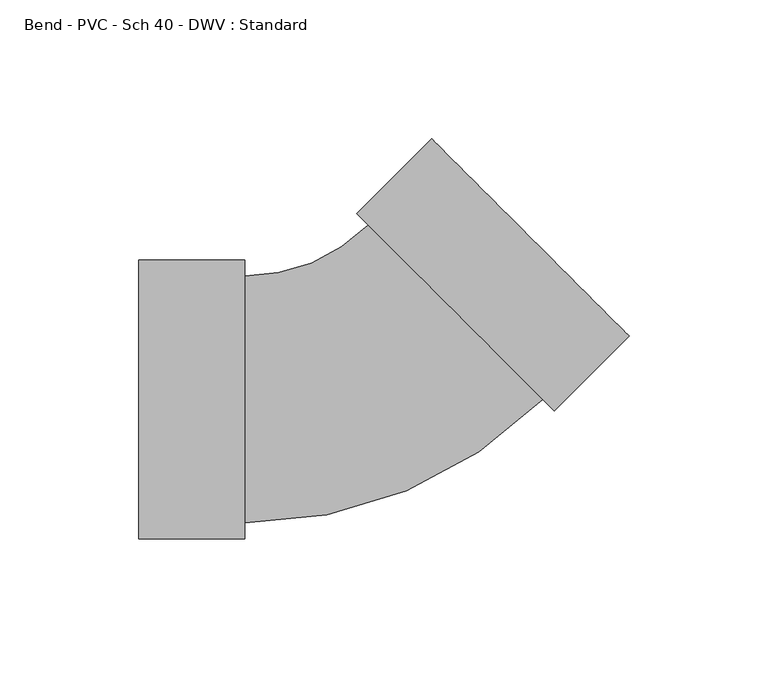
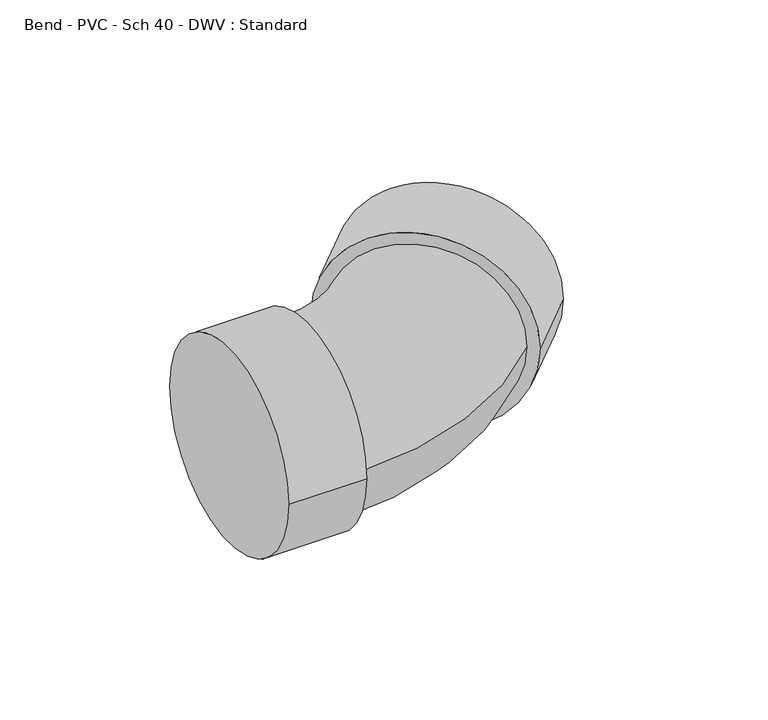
"""IFC4 building model written with IfcOpenShell, lengths in millimetres: pipe fitting geometry, Bend - PVC - Sch 40 - DWV : Standard."""

from ifc_helpers import new_model, si_unit, point, frame, origin, place, context, project, spatial, circle_curve, ellipse_curve, trimmed, source, transform, mapped, element, save
from ifc_brep_helpers import plane_surface, cylinder_surface, revolved_surface, advanced_brep


def bend_pvc_sch_40_dwv_standard_c6b3a881(model_context):
    return source(origin(), model_context, "Body", "AdvancedBrep", [
        advanced_brep(
        [(-82.55, -50.2666, 0.0), (-82.55, 50.2666, 0.0), (-44.45, -50.2666, 0.0), (-44.45, 50.2666, 0.0), (-44.45, -44.45, 0.0), (-44.45, 44.45, 0.0), (0.0011777, 62.8617928, 0.0), (62.8617928, -0.0011777, 0.0), (66.9746731, -4.114212, 0.0), (-4.1117026, 66.9748272, 0.0), (93.9159462, 22.8260516, 0.0), (22.8295705, 93.9150908, 0.0)],
        [
            (0, 1, circle_curve(frame((-82.55, 0.0, 0.0), z_axis=(-1.0, 0.0, 0.0), x_axis=(0.0, 1.0, 0.0)), 50.2666)),
            (1, 0, circle_curve(frame((-82.55, 0.0, 0.0), z_axis=(-1.0, 0.0, 0.0), x_axis=(0.0, 1.0, 0.0)), 50.2666)),
            (2, 3, circle_curve(frame((-44.45, 0.0, 0.0), z_axis=(1.0, 0.0, 0.0), x_axis=(0.0, 1.0, 0.0)), 50.2666)),
            (3, 2, circle_curve(frame((-44.45, 0.0, 0.0), z_axis=(1.0, 0.0, 0.0), x_axis=(0.0, 1.0, 0.0)), 50.2666)),
            (4, 5, circle_curve(frame((-44.45, 0.0, 0.0), z_axis=(-1.0, 0.0, 0.0), x_axis=(0.0, 1.0, 0.0)), 44.45)),
            (5, 4, circle_curve(frame((-44.45, 0.0, 0.0), z_axis=(-1.0, 0.0, 0.0), x_axis=(0.0, 1.0, 0.0)), 44.45)),
            (0, 2),
            (3, 1),
            (6, 5, circle_curve(frame((-44.45, 107.314636, 0.0), z_axis=(0.0, 0.0, -1.0), x_axis=(0.0, -1.0, 0.0)), 62.864636)),
            (4, 7, circle_curve(frame((-44.45, 107.314636, 0.0), z_axis=(0.0, 0.0, 1.0), x_axis=(0.0, -1.0, 0.0)), 151.764636)),
            (7, 6, circle_curve(frame((31.4314853, 31.4303076, 0.0), z_axis=(-0.7071200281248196, -0.7070935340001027, 0.0), x_axis=(-0.7070935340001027, 0.7071200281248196, 0.0)), 44.45)),
            (6, 7, circle_curve(frame((31.4314853, 31.4303076, 0.0), z_axis=(-0.7071200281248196, -0.7070935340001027, 0.0), x_axis=(-0.7070935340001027, 0.7071200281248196, 0.0)), 44.45)),
            (8, 9, circle_curve(frame((31.4314853, 31.4303076, 0.0), z_axis=(-0.7071200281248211, -0.7070935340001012, 0.0), x_axis=(-0.7070935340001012, 0.7071200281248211, 0.0)), 50.2666)),
            (9, 8, circle_curve(frame((31.4314853, 31.4303076, 0.0), z_axis=(-0.7071200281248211, -0.7070935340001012, 0.0), x_axis=(-0.7070935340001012, 0.7071200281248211, 0.0)), 50.2666)),
            (10, 11, circle_curve(frame((58.3727583, 58.3705712, 0.0), z_axis=(0.7071200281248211, 0.7070935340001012, 0.0), x_axis=(-0.7070935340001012, 0.7071200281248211, 0.0)), 50.2666)),
            (11, 10, circle_curve(frame((58.3727583, 58.3705712, 0.0), z_axis=(0.7071200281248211, 0.7070935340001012, 0.0), x_axis=(-0.7070935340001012, 0.7071200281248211, 0.0)), 50.2666)),
            (8, 10),
            (11, 9),
        ],
        [
            plane_surface(frame((-82.55, 0.0, 0.0), z_axis=(-1.0, 0.0, 0.0), x_axis=(0.0, 0.0, 1.0))),
            plane_surface(frame((-44.45, 0.0, 0.0), z_axis=(1.0, 0.0, 0.0), x_axis=(0.0, 0.0, 1.0))),
            cylinder_surface(frame((-82.55, 0.0, 0.0), z_axis=(-1.0, 0.0, 0.0), x_axis=(0.0, 1.0, 0.0)), 50.2666),
            revolved_surface(trimmed(ellipse_curve(frame((-44.45, 0.0, 0.0), z_axis=(-1.0, 0.0, 0.0), x_axis=(0.0, 1.0, 0.0)), 44.45, 44.45), [point((-44.45, -44.45, 0.0))], [point((-44.45, 44.45, 0.0))], True, "CARTESIAN"), (-44.45, 107.314636, 0.0), (0.0, 0.0, 1.0)),
            revolved_surface(trimmed(ellipse_curve(frame((-44.45, 0.0, 0.0), z_axis=(-1.0, 0.0, 0.0), x_axis=(0.0, 1.0, 0.0)), 44.45, 44.45), [point((-44.45, 44.45, 0.0))], [point((-44.45, -44.45, 0.0))], True, "CARTESIAN"), (-44.45, 107.314636, 0.0), (0.0, 0.0, 1.0)),
            plane_surface(frame((31.4314853, 31.4303076, 0.0), z_axis=(-0.7071200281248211, -0.7070935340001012, 0.0), x_axis=(0.0, 0.0, 1.0))),
            plane_surface(frame((58.3727583, 58.3705712, 0.0), z_axis=(0.7071200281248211, 0.7070935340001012, 0.0), x_axis=(0.0, 0.0, 1.0))),
            cylinder_surface(frame((31.4314853, 31.4303076, 0.0), z_axis=(-0.7071200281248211, -0.7070935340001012, 0.0), x_axis=(-0.7070935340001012, 0.7071200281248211, 0.0)), 50.2666),
        ],
        [
            (0, [[1, 2]]),
            (1, [[3, 4], [5, 6]]),
            (2, [[-1, 7, -4, 8]]),
            (2, [[-2, -8, -3, -7]]),
            (3, [[9, -5, 10, 11]]),
            (4, [[-9, 12, -10, -6]]),
            (5, [[13, 14], [-11, -12]]),
            (6, [[15, 16]]),
            (7, [[-13, 17, -16, 18]]),
            (7, [[-14, -18, -15, -17]]),
        ],
    ),
    ])


if __name__ == "__main__":
    model = new_model("IFC4")
    model_context = context("Model", 3, world=origin())
    ifc_project = project(units=[si_unit("LENGTHUNIT", "METRE", prefix="MILLI")], contexts=[model_context])
    site = spatial("IfcSite", under=ifc_project)
    building = spatial("IfcBuilding", under=site)
    placement = place(None, origin())
    bend_pvc_sch_40_dwv_standard_shape = bend_pvc_sch_40_dwv_standard_c6b3a881(model_context)
    element("IfcPipeFitting", 1, ObjectType="Bend - PVC - Sch 40 - DWV : Standard", at=placement, inside=building, context=model_context, shape_type="MappedRepresentation", body=[
        mapped(bend_pvc_sch_40_dwv_standard_shape, transform((0.0, 0.0, 0.0), x_axis=(1.0, 0.0, 0.0), y_axis=(0.0, 1.0, 0.0), z_axis=(0.0, 0.0, 1.0))),
    ])
    save(model, "model.ifc")
